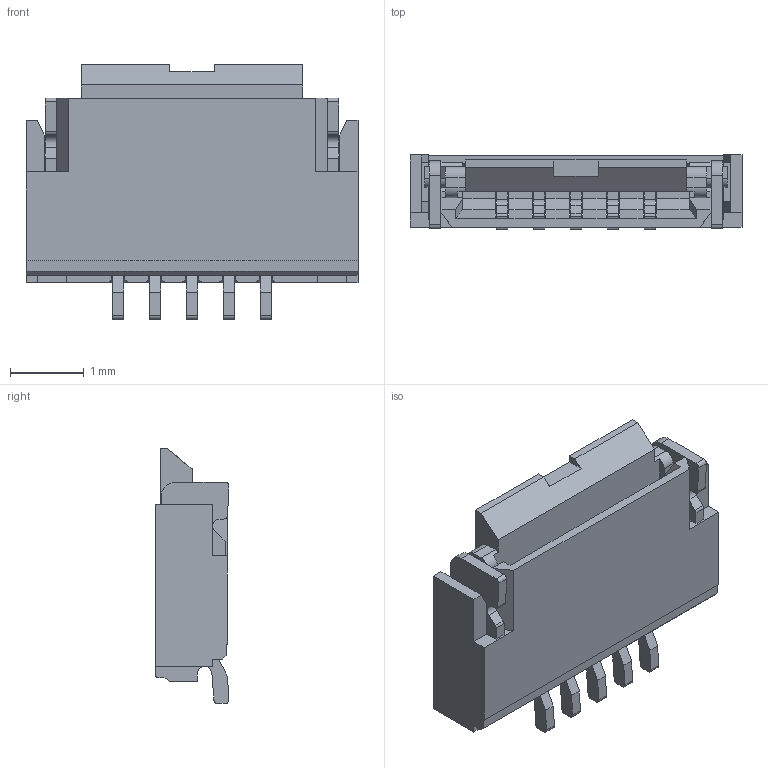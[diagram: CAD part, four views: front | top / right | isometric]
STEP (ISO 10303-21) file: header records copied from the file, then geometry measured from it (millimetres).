
FILE_DESCRIPTION((''),'2;1');
FILE_NAME('PRT0002','2014-05-22T',('d21450'),(''),'PRO/ENGINEER BY PARAMETRIC TECHNOLOGY CORPORATION, 2009360','PRO/ENGINEER BY PARAMETRIC TECHNOLOGY CORPORATION, 2009360','');
FILE_SCHEMA(('CONFIG_CONTROL_DESIGN'));
Length unit declared in the file: millimetre
Products named in the file (1): PRT0002
Bounding box: 4.5 x 1 x 3.45 mm (x, y, z)
Volume: 7.7 mm3; surface area: 85.1 mm2
Topology: 1 solids, 1 shells, 524 faces, 1764 edges, 1173 vertices
Faces by surface type: plane 361, cylinder 163
Entity records: 19292 total; most frequent: ORIENTED_EDGE 3472, CARTESIAN_POINT 3435, DIRECTION 3222, EDGE_CURVE 1736, VECTOR 1358, LINE 1358, VERTEX_POINT 1145, AXIS2_PLACEMENT_3D 932
